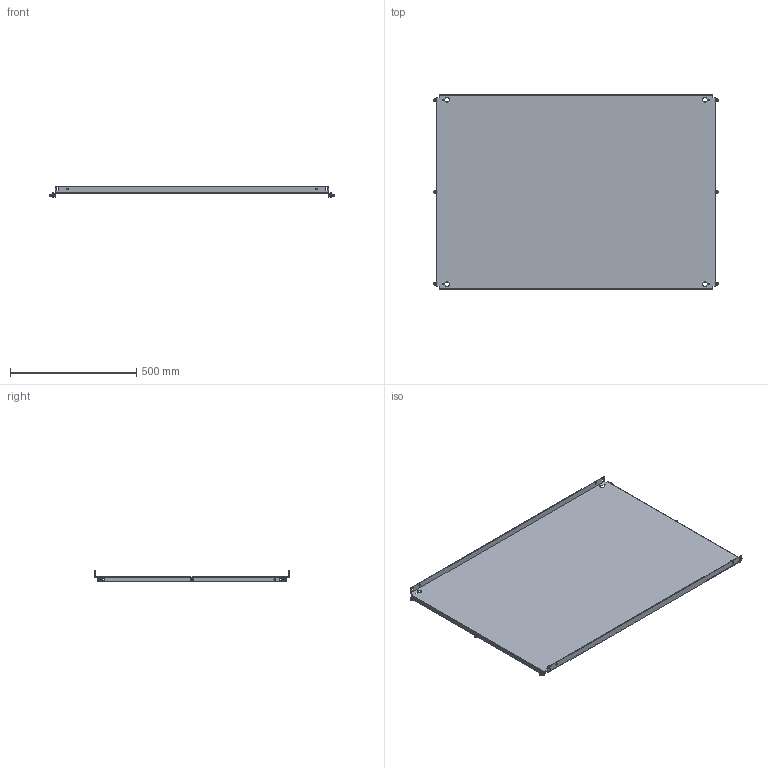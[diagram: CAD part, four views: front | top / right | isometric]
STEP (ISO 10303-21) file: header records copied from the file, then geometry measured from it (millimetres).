
FILE_DESCRIPTION(('Open CASCADE Model'),'2;1');
FILE_NAME('Open CASCADE Shape Model','2025-02-24T17:07:12',('Author'),( 'Open CASCADE'),'Open CASCADE STEP processor 7.8','Open CASCADE 7.8' ,'Unknown');
FILE_SCHEMA(('AUTOMOTIVE_DESIGN { 1 0 10303 214 1 1 1 1 }'));
Length unit declared in the file: millimetre
Products named in the file (4): Compound1; Solid1; Solid2; Solid3
Assembly tree (13 placements, depth 2):
  Compound1
    Solid1
    Solid2  x6
    Solid3  x6
Bounding box: 1127 x 769 x 42.59 mm (x, y, z)
Volume: 2306337.2 mm3; surface area: 1857325.4 mm2
Topology: 13 solids, 13 shells, 422 faces, 1010 edges, 620 vertices
Faces by surface type: plane 192, cone 102, bspline 72, cylinder 38, torus 18
Full cylindrical faces by diameter (mm): 5 x6, 6 x12, 7 x16
Entity records: 5048 total; most frequent: CARTESIAN_POINT 1397, ORIENTED_EDGE 770, DIRECTION 664, EDGE_CURVE 385, VERTEX_POINT 250, AXIS2_PLACEMENT_3D 224, LINE 216, VECTOR 216
